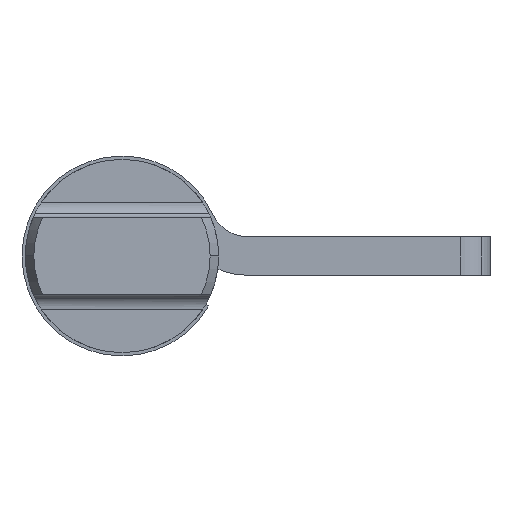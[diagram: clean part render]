
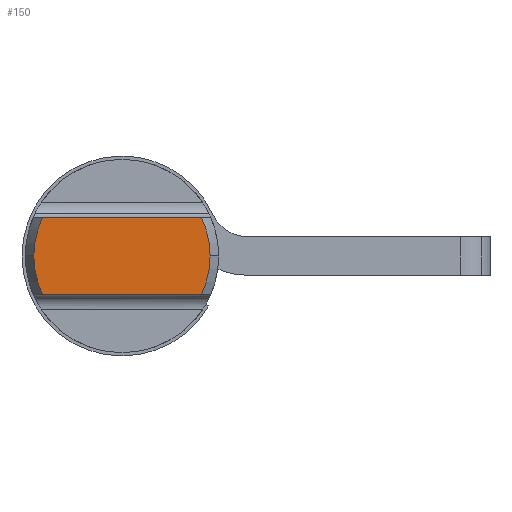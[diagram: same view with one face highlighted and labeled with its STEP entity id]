
A CAD part, left-side view. The second image highlights one B-rep face of the part: STEP entity #150.
In plain terms, the highlighted planar face has unit normal (-1, 0, 0).
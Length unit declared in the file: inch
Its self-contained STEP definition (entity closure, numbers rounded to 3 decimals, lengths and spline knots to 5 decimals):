
#150=ADVANCED_FACE('',(#371),#372,.F.);
#371=FACE_OUTER_BOUND('',#696,.T.);
#372=PLANE('',#697);
#696=EDGE_LOOP('',(#1007,#1008,#1009,#1010,#1011,#1012));
#697=AXIS2_PLACEMENT_3D('',#1013,#1014,#1015);
#1007=ORIENTED_EDGE('',*,*,#1877,.T.);
#1008=ORIENTED_EDGE('',*,*,#1878,.T.);
#1009=ORIENTED_EDGE('',*,*,#1879,.F.);
#1010=ORIENTED_EDGE('',*,*,#1880,.T.);
#1011=ORIENTED_EDGE('',*,*,#1881,.T.);
#1012=ORIENTED_EDGE('',*,*,#1882,.F.);
#1013=CARTESIAN_POINT('',(-3.75454,-4.5,0.));
#1014=DIRECTION('',(1.0,-0.0,0.));
#1015=DIRECTION('',(0.,0.0,-1.0));
#1877=EDGE_CURVE('',#2228,#2229,#2230,.T.);
#1878=EDGE_CURVE('',#2229,#2231,#2232,.T.);
#1879=EDGE_CURVE('',#2233,#2231,#2234,.T.);
#1880=EDGE_CURVE('',#2233,#2235,#2236,.T.);
#1881=EDGE_CURVE('',#2235,#2237,#2238,.T.);
#1882=EDGE_CURVE('',#2228,#2237,#2239,.T.);
#2228=VERTEX_POINT('',#2739);
#2229=VERTEX_POINT('',#2740);
#2230=CIRCLE('',#2741,0.08984);
#2231=VERTEX_POINT('',#2742);
#2232=CIRCLE('',#2743,0.08984);
#2233=VERTEX_POINT('',#2744);
#2234=LINE('',#2745,#2746);
#2235=VERTEX_POINT('',#2747);
#2236=CIRCLE('',#2748,0.08984);
#2237=VERTEX_POINT('',#2749);
#2238=CIRCLE('',#2750,0.08984);
#2239=LINE('',#2751,#2752);
#2739=CARTESIAN_POINT('',(-3.75454,-4.41909,0.03905));
#2740=CARTESIAN_POINT('',(-3.75454,-4.41016,0.));
#2741=AXIS2_PLACEMENT_3D('',#3427,#3428,#3429);
#2742=CARTESIAN_POINT('',(-3.75454,-4.41909,-0.03905));
#2743=AXIS2_PLACEMENT_3D('',#3430,#3431,#3432);
#2744=CARTESIAN_POINT('',(-3.75454,-4.58091,-0.03905));
#2745=CARTESIAN_POINT('',(-3.75454,-4.5,-0.03905));
#2746=VECTOR('',#3433,0.3937);
#2747=CARTESIAN_POINT('',(-3.75454,-4.58984,0.));
#2748=AXIS2_PLACEMENT_3D('',#3434,#3435,#3436);
#2749=CARTESIAN_POINT('',(-3.75454,-4.58091,0.03905));
#2750=AXIS2_PLACEMENT_3D('',#3437,#3438,#3439);
#2751=CARTESIAN_POINT('',(-3.75454,-4.5,0.03905));
#2752=VECTOR('',#3440,0.3937);
#3427=CARTESIAN_POINT('',(-3.75454,-4.5,0.));
#3428=DIRECTION('',(-1.0,0.0,0.));
#3429=DIRECTION('',(0.,1.0,0.));
#3430=CARTESIAN_POINT('',(-3.75454,-4.5,0.));
#3431=DIRECTION('',(-1.0,0.0,0.));
#3432=DIRECTION('',(0.,1.0,0.));
#3433=DIRECTION('',(0.0,1.0,0.0));
#3434=CARTESIAN_POINT('',(-3.75454,-4.5,0.));
#3435=DIRECTION('',(-1.0,0.,0.));
#3436=DIRECTION('',(0.,-1.0,0.));
#3437=CARTESIAN_POINT('',(-3.75454,-4.5,0.));
#3438=DIRECTION('',(-1.0,0.,0.));
#3439=DIRECTION('',(0.,-1.0,0.));
#3440=DIRECTION('',(0.0,-1.0,0.0));
